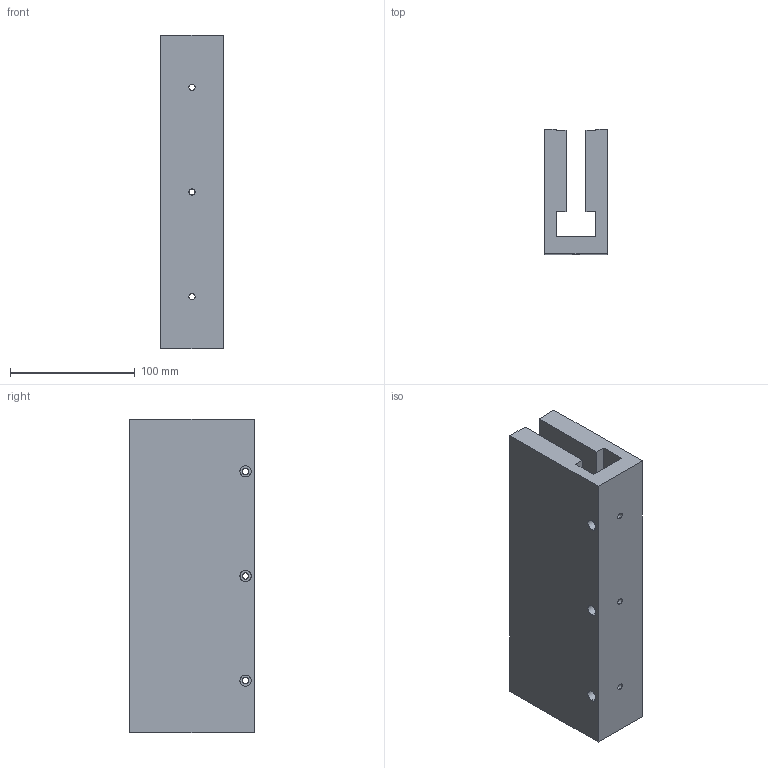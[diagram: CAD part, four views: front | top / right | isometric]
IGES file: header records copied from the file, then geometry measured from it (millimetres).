
Start section: SolidWorks IGES file using analytic representation for surfaces
Bounding box: 50 x 100 x 251.5 mm (x, y, z)
Surface area: 136498.9 mm2 (no closed solid volume)
Topology: 0 solids, 0 shells, 60 faces, 1320 edges, 1320 vertices
Faces by surface type: revolution 36, bspline 24
